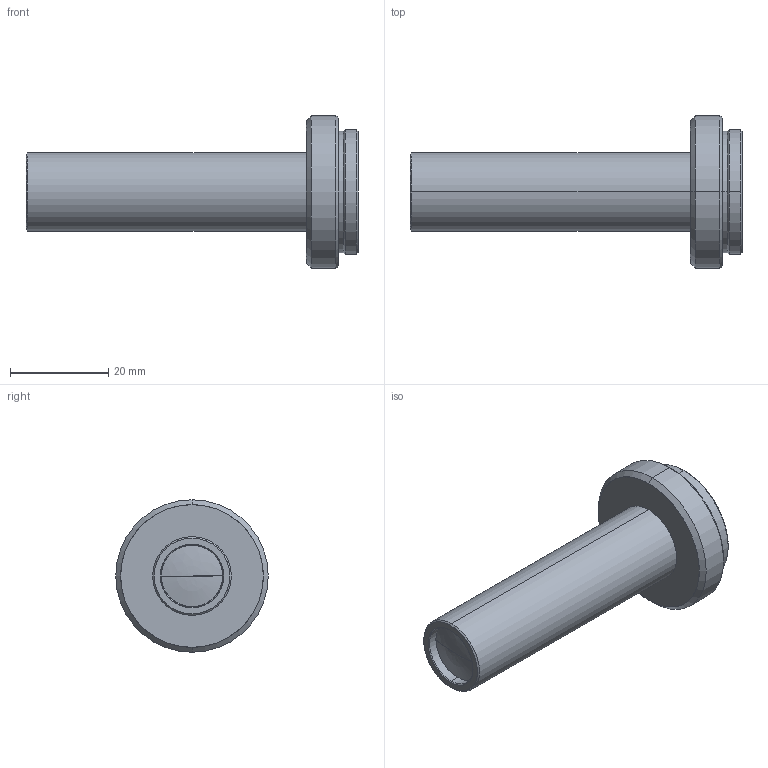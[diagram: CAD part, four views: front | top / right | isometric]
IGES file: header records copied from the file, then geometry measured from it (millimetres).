
Start section: SolidWorks IGES file using analytic representation for surfaces
Global section: file name: \\192.168.1.203\Development\02 テレセントリックレンズ\01 VS-TC／TC-LD Series\02 Middle WD(WD65～75)\65-70mm\020 VS-TC2-65\3D\VS-TC2-65.IGS; native system: SolidWorks 2012; preprocessor: SolidWorks 2012; author: a-3DCAD2; date: 120601.165648; units: millimetre
Bounding box: 67.5 x 31 x 31 mm (x, y, z)
Surface area: 5699.9 mm2 (no closed solid volume)
Topology: 0 solids, 0 shells, 51 faces, 696 edges, 694 vertices
Faces by surface type: revolution 44, bspline 7
